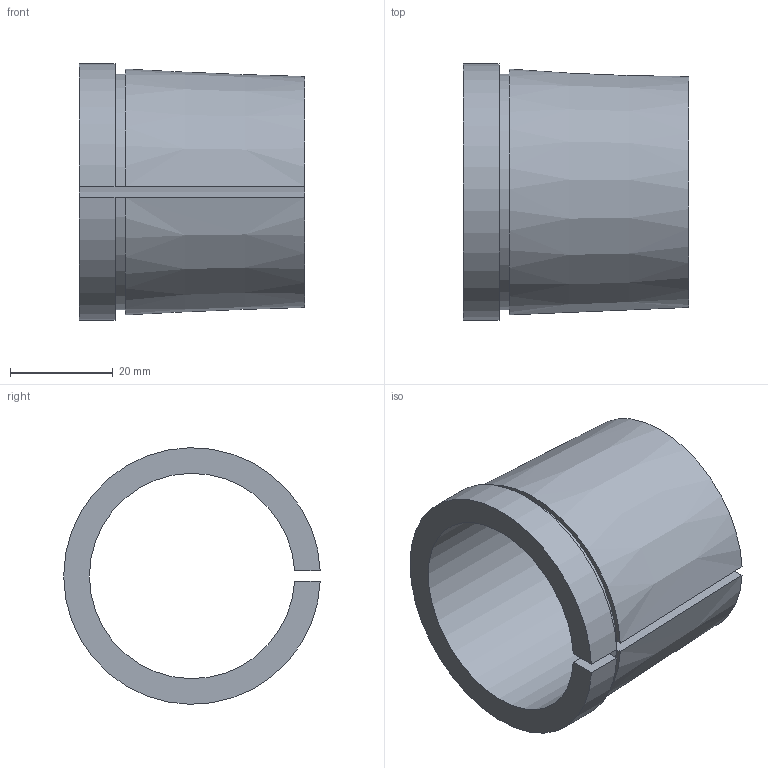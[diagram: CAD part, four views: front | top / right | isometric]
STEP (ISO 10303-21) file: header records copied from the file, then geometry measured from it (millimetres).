
FILE_DESCRIPTION(/* description */ (''),/* implementation_level */ '2;1');
FILE_NAME(/* name */ 'AH2309.stp',/* time_stamp */ '2024-07-23T13:25:17+02:00',/* author */ ('OUPIONTEKM'),/* organization */ (''),/* preprocessor_version */ 'ST-DEVELOPER v20',/* originating_system */ 'Autodesk Inventor 2025',/* authorisation */ '');
FILE_SCHEMA (('AUTOMOTIVE_DESIGN { 1 0 10303 214 3 1 1 }'));
Length unit declared in the file: millimetre
Products named in the file (1): AH2309
Bounding box: 44 x 49.98 x 49.99 mm (x, y, z)
Volume: 20807.2 mm3; surface area: 13636.7 mm2
Topology: 1 solids, 1 shells, 10 faces, 24 edges, 16 vertices
Faces by surface type: plane 6, cylinder 3, cone 1
Entity records: 337 total; most frequent: CARTESIAN_POINT 55, DIRECTION 52, ORIENTED_EDGE 48, EDGE_CURVE 24, AXIS2_PLACEMENT_3D 19, VERTEX_POINT 16, LINE 14, VECTOR 14
